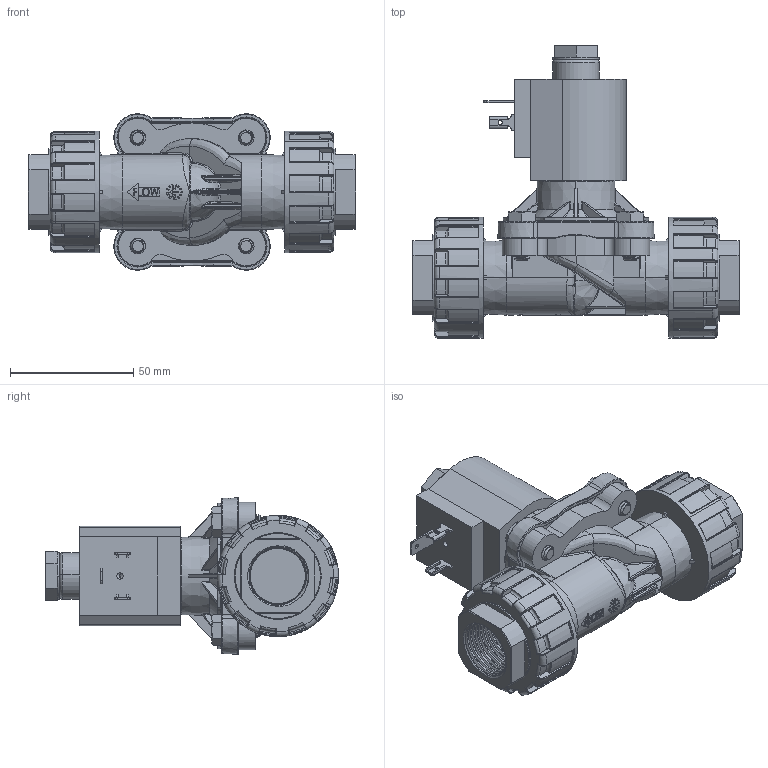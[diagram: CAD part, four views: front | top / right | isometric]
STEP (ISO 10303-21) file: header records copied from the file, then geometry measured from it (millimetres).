
FILE_DESCRIPTION (( 'STEP AP203' ), '1' );
FILE_NAME ('T202YxxxxPE2.STEP', '2024-05-06T16:13:10', ( '' ), ( '' ), 'SwSTEP 2.0', 'SolidWorks 2023', '' );
FILE_SCHEMA (( 'CONFIG_CONTROL_DESIGN' ));
Length unit declared in the file: millimetre
Products named in the file (1): T202YxxxxPE2
Bounding box: 133 x 118.92 x 63.5 mm (x, y, z)
Volume: 248749.7 mm3; surface area: 47919 mm2
Topology: 1 solids, 1 shells, 2527 faces, 6574 edges, 4015 vertices
Faces by surface type: bspline 884, plane 690, cylinder 403, torus 275, cone 193, sphere 82
Entity records: 121031 total; most frequent: CARTESIAN_POINT 67197, ORIENTED_EDGE 12916, DIRECTION 8839, EDGE_CURVE 6458, VERTEX_POINT 4011, AXIS2_PLACEMENT_3D 3280, EDGE_LOOP 2611, FACE_OUTER_BOUND 2527
